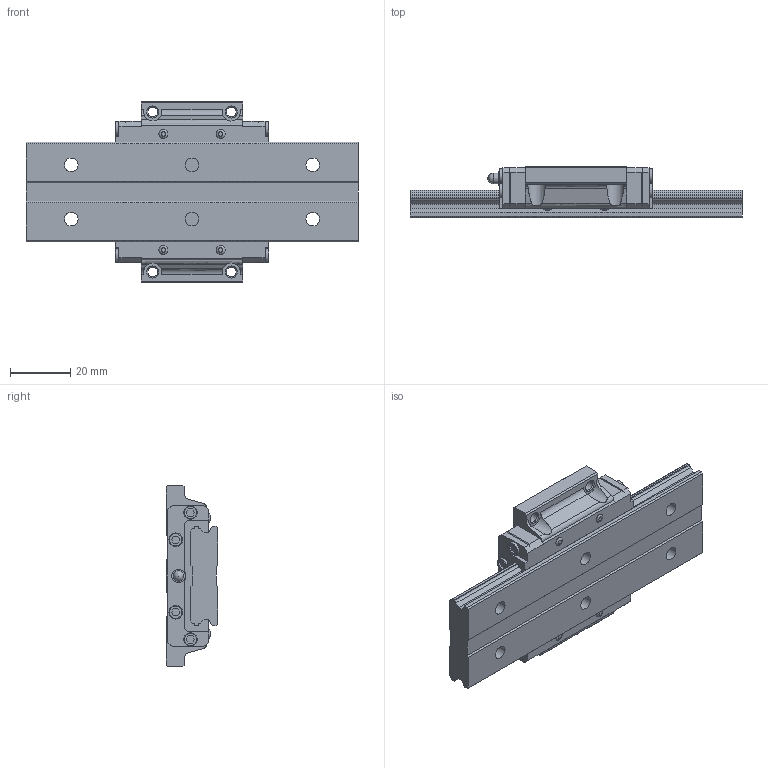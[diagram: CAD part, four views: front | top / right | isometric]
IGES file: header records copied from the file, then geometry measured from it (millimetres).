
Start section: Data from Parasolid IGES Translator 26.0.171, Copyright(c) 2006 Siemens PLM Software. All Rights Reserved.
Global section: file name: HRW17CA1UU-110L_G15_0_PB107_29-6_0_0_0_1.igs; native system: By Siemens PLM Incorporated; preprocessor: XPlus GENERIC/IGES 26.0.171; author: Noname; organization: Noname; date: 20240521.094907; units: millimetre
Bounding box: 110 x 17 x 60 mm (x, y, z)
Surface area: 20557.3 mm2 (no closed solid volume)
Topology: 0 solids, 0 shells, 302 faces, 1583 edges, 1501 vertices
Faces by surface type: extrusion 220, revolution 82
